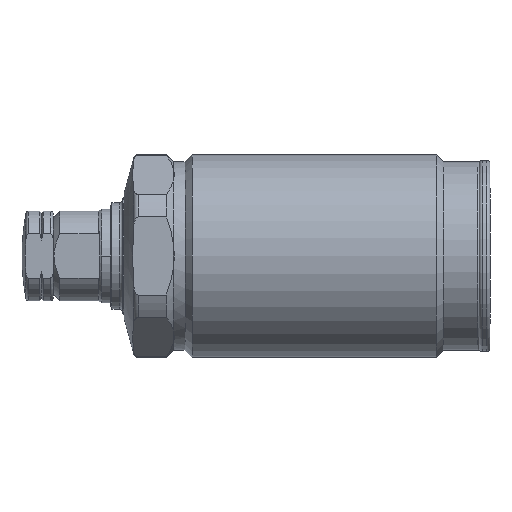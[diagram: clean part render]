
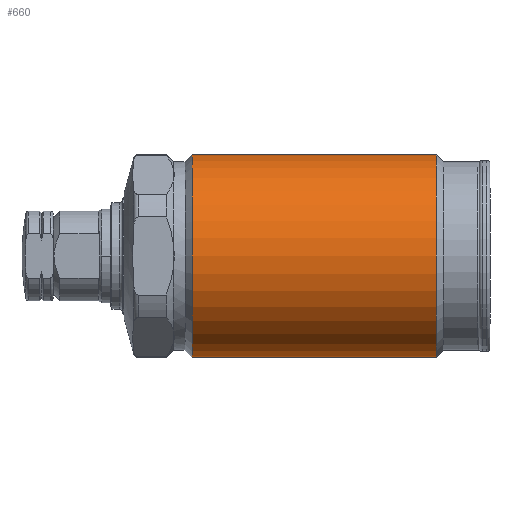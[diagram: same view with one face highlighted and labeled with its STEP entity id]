
A CAD part, left-side view. The second image highlights one B-rep face of the part: STEP entity #660.
In plain terms, the highlighted cylindrical face has radius 13 mm (diameter 26 mm), a full revolution.
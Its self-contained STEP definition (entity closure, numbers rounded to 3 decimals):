
#320=FACE_BOUND('',#1046,.T.);
#321=FACE_BOUND('',#1047,.T.);
#362=CYLINDRICAL_SURFACE('',#2967,13.);
#424=LINE('',#4603,#524);
#425=LINE('',#4606,#525);
#426=LINE('',#4608,#526);
#427=LINE('',#4613,#527);
#524=VECTOR('',#3576,1.);
#525=VECTOR('',#3579,1.);
#526=VECTOR('',#3580,1.);
#527=VECTOR('',#3583,1.);
#660=ADVANCED_FACE('',(#320,#321),#362,.T.);
#1046=EDGE_LOOP('',(#1453,#1454,#1455,#1456,#1457,#1458));
#1047=EDGE_LOOP('',(#1459,#1460,#1461,#1462,#1463,#1464));
#1453=ORIENTED_EDGE('',*,*,#2324,.T.);
#1454=ORIENTED_EDGE('',*,*,#2325,.T.);
#1455=ORIENTED_EDGE('',*,*,#2325,.F.);
#1456=ORIENTED_EDGE('',*,*,#2326,.T.);
#1457=ORIENTED_EDGE('',*,*,#2327,.T.);
#1458=ORIENTED_EDGE('',*,*,#2327,.F.);
#1459=ORIENTED_EDGE('',*,*,#2328,.T.);
#1460=ORIENTED_EDGE('',*,*,#2329,.T.);
#1461=ORIENTED_EDGE('',*,*,#2330,.F.);
#1462=ORIENTED_EDGE('',*,*,#2330,.T.);
#1463=ORIENTED_EDGE('',*,*,#2331,.T.);
#1464=ORIENTED_EDGE('',*,*,#2328,.F.);
#2030=VERTEX_POINT('',#4601);
#2031=VERTEX_POINT('',#4602);
#2032=VERTEX_POINT('',#4604);
#2033=VERTEX_POINT('',#4607);
#2034=VERTEX_POINT('',#4609);
#2035=VERTEX_POINT('',#4610);
#2036=VERTEX_POINT('',#4612);
#2037=VERTEX_POINT('',#4614);
#2324=EDGE_CURVE('',#2030,#2031,#2667,.T.);
#2325=EDGE_CURVE('',#2031,#2032,#424,.T.);
#2326=EDGE_CURVE('',#2031,#2030,#2668,.T.);
#2327=EDGE_CURVE('',#2030,#2033,#425,.T.);
#2328=EDGE_CURVE('',#2034,#2035,#426,.T.);
#2329=EDGE_CURVE('',#2035,#2036,#2669,.T.);
#2330=EDGE_CURVE('',#2037,#2036,#427,.T.);
#2331=EDGE_CURVE('',#2036,#2035,#2670,.T.);
#2667=CIRCLE('',#2963,13.);
#2668=CIRCLE('',#2964,13.);
#2669=CIRCLE('',#2965,13.);
#2670=CIRCLE('',#2966,13.);
#2963=AXIS2_PLACEMENT_3D('',#4600,#3574,#3575);
#2964=AXIS2_PLACEMENT_3D('',#4605,#3577,#3578);
#2965=AXIS2_PLACEMENT_3D('',#4611,#3581,#3582);
#2966=AXIS2_PLACEMENT_3D('',#4615,#3584,#3585);
#2967=AXIS2_PLACEMENT_3D('',#4616,#3586,#3587);
#3574=DIRECTION('',(0.,1.,0.));
#3575=DIRECTION('',(0.,0.,1.));
#3576=DIRECTION('',(0.,1.,0.));
#3577=DIRECTION('',(0.,1.,0.));
#3578=DIRECTION('',(0.,0.,1.));
#3579=DIRECTION('',(0.,1.,0.));
#3580=DIRECTION('',(0.,1.,0.));
#3581=DIRECTION('',(0.,-1.,0.));
#3582=DIRECTION('',(0.,0.,1.));
#3583=DIRECTION('',(0.,1.,0.));
#3584=DIRECTION('',(0.,-1.,0.));
#3585=DIRECTION('',(0.,0.,1.));
#3586=DIRECTION('',(0.,1.,0.));
#3587=DIRECTION('',(0.,0.,-1.));
#4600=CARTESIAN_POINT('',(0.,5.6,0.));
#4601=CARTESIAN_POINT('',(0.,5.6,13.));
#4602=CARTESIAN_POINT('',(0.,5.6,-13.));
#4603=CARTESIAN_POINT('',(0.,40.8,-13.));
#4604=CARTESIAN_POINT('',(0.,30.3,-13.));
#4605=CARTESIAN_POINT('',(0.,5.6,0.));
#4606=CARTESIAN_POINT('',(0.,40.8,13.));
#4607=CARTESIAN_POINT('',(0.,30.3,13.));
#4608=CARTESIAN_POINT('',(0.,40.8,13.));
#4609=CARTESIAN_POINT('',(0.,36.3,13.));
#4610=CARTESIAN_POINT('',(0.,36.9,13.));
#4611=CARTESIAN_POINT('',(0.,36.9,0.));
#4612=CARTESIAN_POINT('',(0.,36.9,-13.));
#4613=CARTESIAN_POINT('',(0.,40.8,-13.));
#4614=CARTESIAN_POINT('',(0.,36.3,-13.));
#4615=CARTESIAN_POINT('',(0.,36.9,0.));
#4616=CARTESIAN_POINT('',(0.,40.8,0.));
